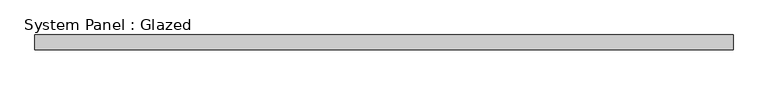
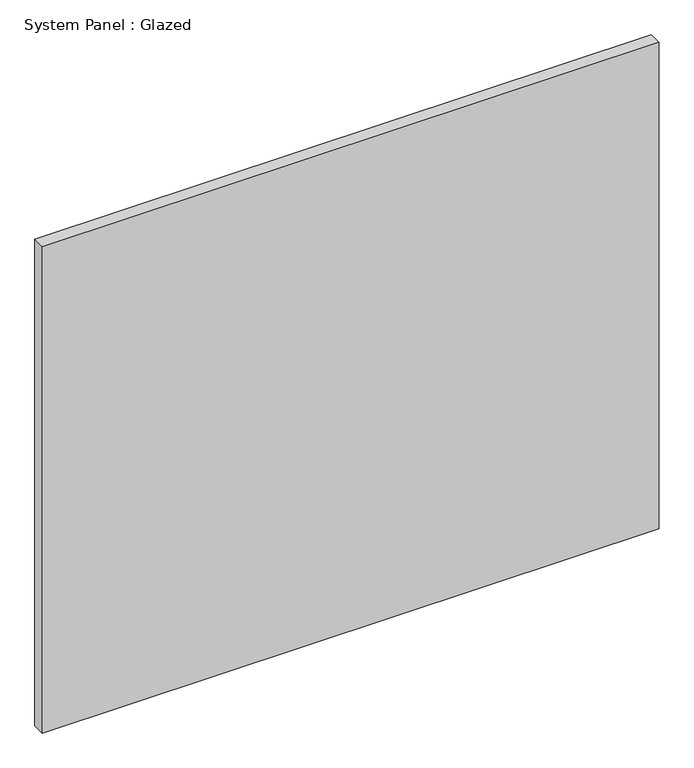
"""IFC4 building model written with IfcOpenShell, lengths in millimetres: plate geometry, System Panel : Glazed."""

from ifc_helpers import new_model, si_unit, origin, origin_with_axes, place, context, project, spatial, polyline, outline, extrude, source, transform, mapped, element, save


def system_panel_glazed_eae3761b(model_context):
    return source(origin(), model_context, "Body", "SweptSolid", [
        extrude(outline(polyline([(600.1804533, 19.05), (-600.1804533, 19.05), (-600.1804533, 44.45), (600.1804533, 44.45), (600.1804533, 19.05)])), origin_with_axes(), (0.0, 0.0, 1.0), 1000.6193103),
    ])


if __name__ == "__main__":
    model = new_model("IFC4")
    model_context = context("Model", 3, world=origin())
    ifc_project = project(units=[si_unit("LENGTHUNIT", "METRE", prefix="MILLI")], contexts=[model_context])
    site = spatial("IfcSite", under=ifc_project)
    building = spatial("IfcBuilding", under=site)
    placement = place(None, origin())
    system_panel_glazed_shape = system_panel_glazed_eae3761b(model_context)
    element("IfcPlate", 1, ObjectType="System Panel : Glazed", at=placement, inside=building, context=model_context, shape_type="MappedRepresentation", body=[
        mapped(system_panel_glazed_shape, transform((0.0, 0.0, 0.0), x_axis=(1.0, 0.0, 0.0), y_axis=(0.0, 1.0, 0.0), z_axis=(0.0, 0.0, 1.0))),
    ])
    save(model, "model.ifc")
